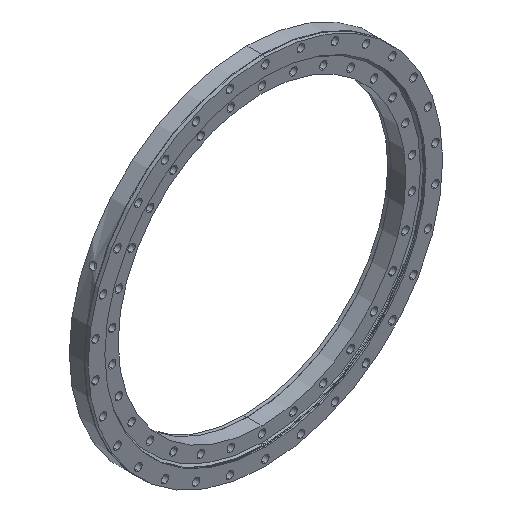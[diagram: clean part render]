
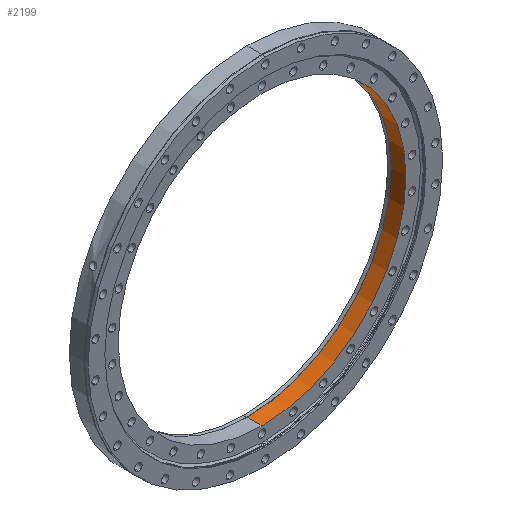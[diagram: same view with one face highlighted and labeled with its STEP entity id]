
A CAD part, isometric view. The second image highlights one B-rep face of the part: STEP entity #2199.
In plain terms, the highlighted cylindrical face has radius 427.5 mm (diameter 855 mm), a partial arc.
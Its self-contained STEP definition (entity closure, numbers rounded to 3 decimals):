
#47 = EDGE_CURVE ( 'NONE', #5220, #1148, #3446, .T. ) ;
#241 = CARTESIAN_POINT ( 'NONE',  ( 0., 1.134, -427.5 ) ) ;
#283 = AXIS2_PLACEMENT_3D ( 'NONE', #2676, #7520, #7441 ) ;
#527 = CARTESIAN_POINT ( 'NONE',  ( 0., 0., 427.5 ) ) ;
#611 = FACE_OUTER_BOUND ( 'NONE', #4983, .T. ) ;
#645 = CARTESIAN_POINT ( 'NONE',  ( 0., 45.134, -427.5 ) ) ;
#651 = VECTOR ( 'NONE', #6373, 1000. ) ;
#1148 = VERTEX_POINT ( 'NONE', #241 ) ;
#1438 = EDGE_CURVE ( 'NONE', #1148, #6809, #1887, .T. ) ;
#1643 = EDGE_CURVE ( 'NONE', #6695, #6809, #5668, .T. ) ;
#1806 = DIRECTION ( 'NONE',  ( 0., 0., -1. ) ) ;
#1887 = CIRCLE ( 'NONE', #283, 427.5 ) ;
#2199 = ADVANCED_FACE ( 'NONE', ( #611 ), #7489, .F. ) ;
#2392 = DIRECTION ( 'NONE',  ( 0., -1., 0. ) ) ;
#2676 = CARTESIAN_POINT ( 'NONE',  ( 0., 1.134, 0. ) ) ;
#2793 = DIRECTION ( 'NONE',  ( 0., -1., 0. ) ) ;
#3133 = CARTESIAN_POINT ( 'NONE',  ( 0., 45.134, 427.5 ) ) ;
#3287 = DIRECTION ( 'NONE',  ( 0., 0., -1. ) ) ;
#3371 = CARTESIAN_POINT ( 'NONE',  ( 0., 0., -427.5 ) ) ;
#3446 = LINE ( 'NONE', #3371, #5598 ) ;
#3529 = CARTESIAN_POINT ( 'NONE',  ( 0., 0., 0. ) ) ;
#4030 = DIRECTION ( 'NONE',  ( 0., -1., 0. ) ) ;
#4381 = AXIS2_PLACEMENT_3D ( 'NONE', #6338, #2793, #3287 ) ;
#4983 = EDGE_LOOP ( 'NONE', ( #7007, #5359, #7468, #7040 ) ) ;
#5051 = CARTESIAN_POINT ( 'NONE',  ( 0., 1.134, 427.5 ) ) ;
#5220 = VERTEX_POINT ( 'NONE', #645 ) ;
#5300 = AXIS2_PLACEMENT_3D ( 'NONE', #3529, #2392, #1806 ) ;
#5359 = ORIENTED_EDGE ( 'NONE', *, *, #6273, .F. ) ;
#5598 = VECTOR ( 'NONE', #4030, 1000. ) ;
#5668 = LINE ( 'NONE', #527, #651 ) ;
#5740 = CIRCLE ( 'NONE', #4381, 427.5 ) ;
#6273 = EDGE_CURVE ( 'NONE', #5220, #6695, #5740, .T. ) ;
#6338 = CARTESIAN_POINT ( 'NONE',  ( 0., 45.134, 0. ) ) ;
#6373 = DIRECTION ( 'NONE',  ( 0., -1., 0. ) ) ;
#6695 = VERTEX_POINT ( 'NONE', #3133 ) ;
#6809 = VERTEX_POINT ( 'NONE', #5051 ) ;
#7007 = ORIENTED_EDGE ( 'NONE', *, *, #1643, .F. ) ;
#7040 = ORIENTED_EDGE ( 'NONE', *, *, #1438, .T. ) ;
#7441 = DIRECTION ( 'NONE',  ( 0., 0., -1. ) ) ;
#7468 = ORIENTED_EDGE ( 'NONE', *, *, #47, .T. ) ;
#7489 = CYLINDRICAL_SURFACE ( 'NONE', #5300, 427.5 ) ;
#7520 = DIRECTION ( 'NONE',  ( 0., -1., 0. ) ) ;
